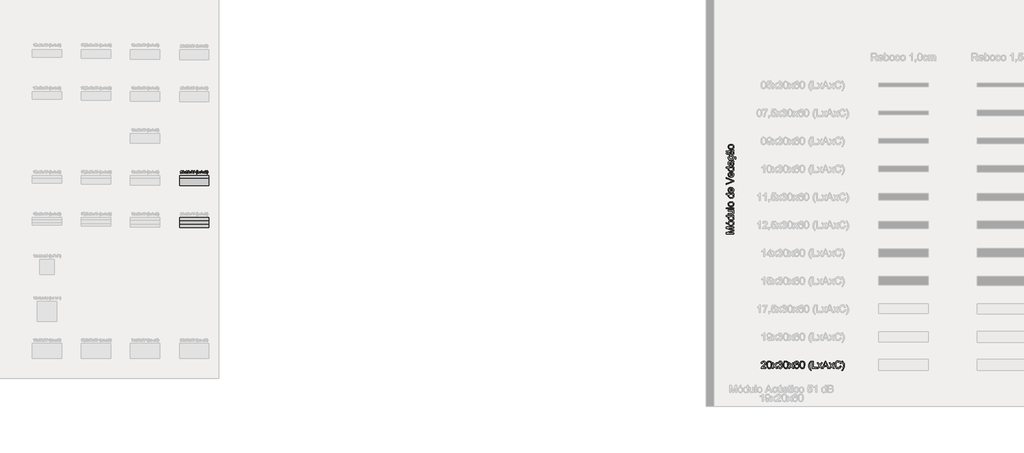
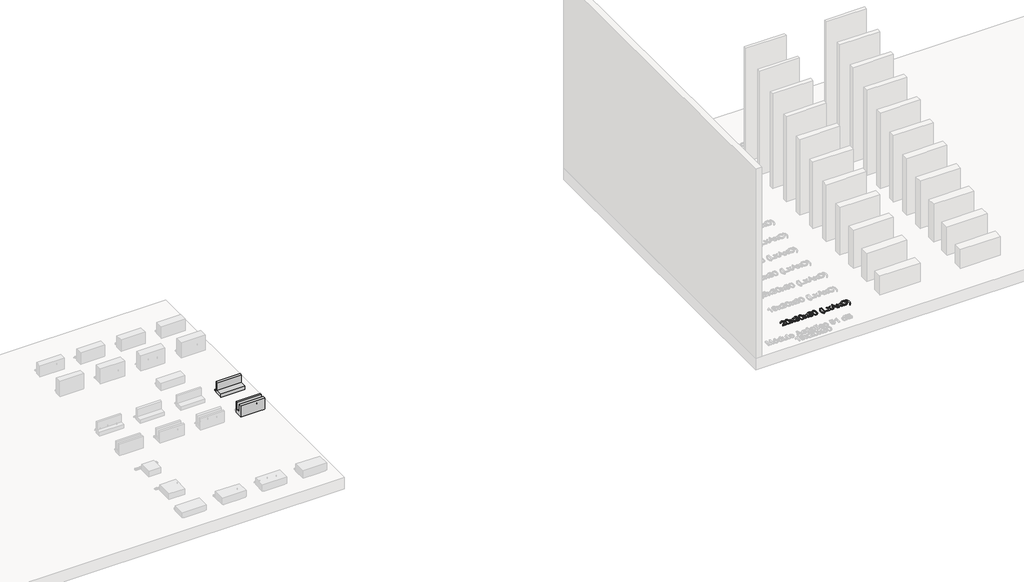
# One storey, part 11 of 26: 5 proxies.
"""IFC4 building model written with IfcOpenShell, lengths in millimetres."""

import ifcopenshell
import ifcopenshell.guid

model = None  # the IFC model being written
_history = None  # IfcOwnerHistory: only IFC2X3 demands one
_inside = {}  # id of a spatial element -> (the spatial element, [elements in it])
_under = {}  # id of a project, library or spatial element -> (it, [spatial elements below it])
_declared = {}  # id of a project -> (the project, [libraries it declares])
_typed = {}  # id of a type object -> (the type object, [elements of that type])
_made_of = {}  # id of a material, layer set ... -> (it, [elements and type objects made of it])


def new_model(schema):
    """Start an empty IFC model of exactly this schema.

    Asked for "IFC4X3", IfcOpenShell would pick the latest addendum, in which some entities
    have other attributes; the version numbers below select the first issue.
    IFC2X3 requires an IfcOwnerHistory on every rooted entity: one is made here for all.
    """
    global model, _history
    if schema == "IFC4X3":
        model = ifcopenshell.file(schema_version=(4, 3, 0, 0))
    else:
        model = ifcopenshell.file(schema=schema)
    _inside.clear()
    _under.clear()
    _declared.clear()
    _typed.clear()
    _made_of.clear()
    _history = None
    if model.schema == "IFC2X3":
        org = make("IfcOrganization", Name="unknown")
        user = make(
            "IfcPersonAndOrganization",
            ThePerson=make("IfcPerson", FamilyName="unknown"),
            TheOrganization=org,
        )
        app = make(
            "IfcApplication",
            ApplicationDeveloper=org,
            Version="unknown",
            ApplicationFullName="unknown",
            ApplicationIdentifier="unknown",
        )
        _history = make(
            "IfcOwnerHistory",
            OwningUser=user,
            OwningApplication=app,
            ChangeAction="ADDED",
            CreationDate=0,
        )
    return model


def make(cls, **values):
    """One entity of the class cls with the attributes given. An attribute that is None is left unset."""
    return model.create_entity(
        cls, **{name: value for name, value in values.items() if value is not None}
    )


def rooted(cls, **values):
    """An entity with a GlobalId (a new one), such as an element, a storey or a relation."""
    return make(cls, GlobalId=ifcopenshell.guid.new(), OwnerHistory=_history, **values)


def si_unit(unit_type, name, prefix=None):
    """IfcSIUnit, for example si_unit("LENGTHUNIT", "METRE", prefix="MILLI")."""
    return make("IfcSIUnit", UnitType=unit_type, Prefix=prefix, Name=name)


def assignment(units):
    """IfcUnitAssignment: the units of a project."""
    return None if units is None else make("IfcUnitAssignment", Units=units)


def point(xyz):
    """IfcCartesianPoint."""
    return None if xyz is None else make("IfcCartesianPoint", Coordinates=xyz)


def direction(xyz):
    """IfcDirection."""
    return None if xyz is None else make("IfcDirection", DirectionRatios=xyz)


def frame(location, z_axis=None, x_axis=None):
    """IfcAxis2Placement3D, a coordinate frame: its origin and axes. An axis left out is left unset."""
    return make(
        "IfcAxis2Placement3D",
        Location=point(location),
        Axis=direction(z_axis),
        RefDirection=direction(x_axis),
    )


def origin():
    """The frame at (0, 0, 0) with its axes left unset."""
    return frame((0.0, 0.0, 0.0))


def origin_with_axes():
    """The frame at (0, 0, 0) with the z axis (0, 0, 1) and the x axis (1, 0, 0) written out."""
    return frame((0.0, 0.0, 0.0), z_axis=(0.0, 0.0, 1.0), x_axis=(1.0, 0.0, 0.0))


def place(relative_to, where):
    """IfcLocalPlacement: puts the frame where relative to a parent placement (None: the world)."""
    return make(
        "IfcLocalPlacement", PlacementRelTo=relative_to, RelativePlacement=where
    )


def context(
    kind, dimensions, precision=None, world=None, true_north=None, identifier=None
):
    """IfcGeometricRepresentationContext, for example the 3D "Model" context."""
    return make(
        "IfcGeometricRepresentationContext",
        ContextIdentifier=identifier,
        ContextType=kind,
        CoordinateSpaceDimension=dimensions,
        Precision=precision,
        WorldCoordinateSystem=world,
        TrueNorth=true_north,
    )


def project(units=None, contexts=None):
    """IfcProject with its units and contexts."""
    return rooted(
        "IfcProject",
        Name="project",
        RepresentationContexts=contexts,
        UnitsInContext=assignment(units),
    )


def spatial(cls, under=None, at=None, **own):
    """A site, building, storey or space (cls), placed at a placement, below another one or the project."""
    s = rooted(cls, ObjectPlacement=at, **own)
    if under is not None:
        _under.setdefault(under.id(), (under, []))[1].append(s)
    return s


def polyline(points):
    """IfcPolyline through the points."""
    return make("IfcPolyline", Points=[point(p) for p in points])


def outline(outer, holes=None, kind="AREA"):
    """IfcArbitraryClosedProfileDef: a profile drawn as a closed curve; with holes, ...WithVoids."""
    if holes is None:
        return make("IfcArbitraryClosedProfileDef", ProfileType=kind, OuterCurve=outer)
    return make(
        "IfcArbitraryProfileDefWithVoids",
        ProfileType=kind,
        OuterCurve=outer,
        InnerCurves=holes,
    )


def extrude(swept, where, along, depth):
    """IfcExtrudedAreaSolid: the profile swept, set in the frame where, extruded along a direction by depth."""
    return make(
        "IfcExtrudedAreaSolid",
        SweptArea=swept,
        Position=where,
        ExtrudedDirection=direction(along),
        Depth=depth,
    )


def shape(context_of_items, identifier, shape_type, items):
    """IfcShapeRepresentation: the items that make up one representation, for example the "Body"."""
    return make(
        "IfcShapeRepresentation",
        ContextOfItems=context_of_items,
        RepresentationIdentifier=identifier,
        RepresentationType=shape_type,
        Items=items,
    )


def source(mapping_origin, context_of_items, identifier, shape_type, items):
    """IfcRepresentationMap: a shape defined once, which mapped items show again and again."""
    return make(
        "IfcRepresentationMap",
        MappingOrigin=mapping_origin,
        MappedRepresentation=shape(context_of_items, identifier, shape_type, items),
    )


def transform(
    local_origin,
    x_axis=None,
    y_axis=None,
    z_axis=None,
    scale=None,
    scale2=None,
    scale3=None,
    uniform=True,
):
    """IfcCartesianTransformationOperator3D, or its non-uniform kind. x_axis, y_axis, z_axis: its Axis1, 2, 3."""
    if uniform:
        return make(
            "IfcCartesianTransformationOperator3D",
            Axis1=direction(x_axis),
            Axis2=direction(y_axis),
            LocalOrigin=point(local_origin),
            Scale=scale,
            Axis3=direction(z_axis),
        )
    return make(
        "IfcCartesianTransformationOperator3DnonUniform",
        Axis1=direction(x_axis),
        Axis2=direction(y_axis),
        LocalOrigin=point(local_origin),
        Scale=scale,
        Axis3=direction(z_axis),
        Scale2=scale2,
        Scale3=scale3,
    )


def mapped(mapping_source, mapping_target):
    """IfcMappedItem: shows the shape of a source again, moved by a transform."""
    return make(
        "IfcMappedItem", MappingSource=mapping_source, MappingTarget=mapping_target
    )


def made_of(thing, what):
    """Note that an element or type object is made of a material, layer set ...; save() writes the relation."""
    if what is not None:
        _made_of.setdefault(what.id(), (what, []))[1].append(thing)
    return thing


def element(
    cls,
    number,
    at=None,
    inside=None,
    cuts=None,
    type_object=None,
    material=None,
    context=None,
    identifier="Body",
    shape_type=None,
    held_by="IfcProductDefinitionShape",
    body=None,
    shapes=None,
    **own,
):
    """One element of the class cls, such as IfcWall. Its Tag is "e" and its number.

    at: its placement. inside: the storey or other place that contains it. cuts: it is an
    opening in that element (IfcRelVoidsElement). A single representation is given by context,
    identifier, shape_type and body (its items); several are given by shapes. held_by: the class
    of the entity that holds the representations. save() writes the other relations.
    """
    e = rooted(cls, Tag="e%d" % number, ObjectPlacement=at, **own)
    if body is not None:
        shapes = [shape(context, identifier, shape_type, body)]
    if shapes is not None:
        e.Representation = make(held_by, Representations=shapes)
    if inside is not None:
        _inside.setdefault(inside.id(), (inside, []))[1].append(e)
    if cuts is not None:
        rooted(
            "IfcRelVoidsElement", RelatingBuildingElement=cuts, RelatedOpeningElement=e
        )
    if type_object is not None:
        _typed.setdefault(type_object.id(), (type_object, []))[1].append(e)
    return made_of(e, material)


def aggregate(whole, parts):
    """IfcRelAggregates: a whole, such as a stair, and the parts it consists of."""
    return rooted("IfcRelAggregates", RelatingObject=whole, RelatedObjects=parts)


def save(model, path):
    """Write the relations noted so far, then the file.

    IfcRelAggregates (storeys below a building ...), IfcRelContainedInSpatialStructure (elements
    in a storey), IfcRelDefinesByType, IfcRelAssociatesMaterial and IfcRelDeclares: one each for
    every whole, place, type object, material and project.
    """
    for whole, parts in _under.values():
        aggregate(whole, parts)
    for where, things in _inside.values():
        rooted(
            "IfcRelContainedInSpatialStructure",
            RelatedElements=things,
            RelatingStructure=where,
        )
    for kind, things in _typed.values():
        rooted("IfcRelDefinesByType", RelatedObjects=things, RelatingType=kind)
    for what, things in _made_of.values():
        rooted("IfcRelAssociatesMaterial", RelatedObjects=things, RelatingMaterial=what)
    for by, libraries in _declared.values():
        rooted("IfcRelDeclares", RelatingContext=by, RelatedDefinitions=libraries)
    model.write(path)


def generic_models_afc9f97a(model_context):
    return source(origin(), model_context, "Body", "SweptSolid", [
        extrude(outline(polyline([(100.0, 0.0), (-100.0, 0.0), (-100.0, 100.0), (50.0, 100.0), (50.0, 300.0), (100.0, 300.0), (100.0, 0.0)])), frame((-300.0, 0.0, 0.0), z_axis=(1.0, 0.0, 0.0), x_axis=(0.0, 1.0, 0.0)), (0.0, 0.0, 1.0), 600.0),
    ])


def generic_models_1f1a3453(model_context):
    return source(origin(), model_context, "Body", "SweptSolid", [
        extrude(outline(polyline([(100.0, 0.0), (-100.0, 0.0), (-100.0, 300.0), (-44.5, 300.0), (-44.5, 100.0), (44.5, 100.0), (44.5, 300.0), (100.0, 300.0), (100.0, 0.0)])), frame((-300.0, 0.0, 0.0), z_axis=(1.0, 0.0, 0.0), x_axis=(0.0, 1.0, 0.0)), (0.0, 0.0, 1.0), 600.0),
    ])


model = new_model("IFC4")

# Units and contexts
model_context = context("Model", 3, world=origin())
ifc_project = project(units=[si_unit("LENGTHUNIT", "METRE", prefix="MILLI")], contexts=[model_context])

# Site, building, storey
site = spatial("IfcSite", under=ifc_project)
building = spatial("IfcBuilding", under=site)
storey = spatial("IfcBuildingStorey", under=building, Name="Catálogo Celucon", Elevation=0.0)

# Proxies
placement = place(None, origin())
element("IfcBuildingElementProxy", 1, Name="Dimensões", ObjectType="Dimensões", at=placement, inside=storey, context=model_context, shape_type="SweptSolid", body=[
    extrude(outline(polyline([(-3749.3935585, -1164.8260642), (-3749.3935585, -1171.1045836), (-3782.3557852, -1171.1045836), (-3781.6813349, -1166.7758388), (-3777.8676249, -1160.1110433), (-3770.0072129, -1152.8331112), (-3759.1669568, -1142.3729998), (-3756.4568928, -1135.2606145), (-3759.0136726, -1129.5032613), (-3765.6907308, -1127.1549479), (-3772.6498319, -1129.448079), (-3775.2924509, -1135.7879121), (-3781.5709703, -1135.0030971), (-3776.7578475, -1124.4939348), (-3765.5558408, -1120.8764285), (-3754.3170458, -1124.898605), (-3750.1783734, -1134.8804698), (-3751.2942821, -1140.8340268), (-3755.0037589, -1146.9899188), (-3763.9984737, -1155.5922261), (-3771.2212235, -1161.6316222), (-3774.0539149, -1164.8260642), (-3749.3935585, -1164.8260642)])), origin_with_axes(), (0.0, 0.0, 1.0), 20.0),
    extrude(outline(polyline([(-3743.1150391, -1146.3951763), (-3741.2694977, -1131.9435452), (-3735.788056, -1123.611018), (-3726.6339257, -1120.8764285), (-3719.3008113, -1122.4951093), (-3714.2363025, -1127.1610793), (-3711.2932465, -1134.5922956), (-3710.1528123, -1146.3951763), (-3711.9799596, -1160.7854936), (-3717.4430072, -1169.1364149), (-3726.6339257, -1171.8893985), (-3738.1118439, -1167.1069326), (-3741.8642403, -1158.6119242), (-3743.1150391, -1146.3951763)]), holes=[polyline([(-3736.8365197, -1146.3829135), (-3733.8934637, -1161.9749788), (-3726.6339257, -1165.6108791), (-3719.3743877, -1161.962716), (-3716.4313317, -1146.3829135), (-3719.2762858, -1130.9686579), (-3726.7075021, -1127.1549479), (-3733.7953619, -1130.5149368), (-3736.8365197, -1146.3829135)])]), origin_with_axes(), (0.0, 0.0, 1.0), 20.0),
    extrude(outline(polyline([(-3707.0135526, -1171.1045836), (-3693.5981225, -1152.563331), (-3706.2287377, -1134.2182822), (-3698.6748941, -1134.2182822), (-3692.5803157, -1143.0474501), (-3689.7353616, -1147.2167794), (-3687.2705522, -1143.8077396), (-3680.3298452, -1134.2182822), (-3672.7760016, -1134.2182822), (-3686.0442789, -1152.563331), (-3673.2665109, -1171.1045836), (-3680.8203546, -1171.1045836), (-3688.5090883, -1159.9577591), (-3689.9193026, -1157.9221454), (-3699.459709, -1171.1045836), (-3707.0135526, -1171.1045836)])), origin_with_axes(), (0.0, 0.0, 1.0), 20.0),
    extrude(outline(polyline([(-3669.3424363, -1157.7627299), (-3663.0639169, -1156.977915), (-3659.5996948, -1163.5875282), (-3653.1188403, -1165.6108791), (-3645.4914203, -1162.8272387), (-3642.6587289, -1155.9355827), (-3645.4668948, -1149.4424654), (-3652.6038055, -1146.8734228), (-3657.0061267, -1147.5601359), (-3656.3071509, -1141.2816165), (-3648.1769589, -1139.5525711), (-3645.0131737, -1134.0098158), (-3647.3063048, -1129.0985911), (-3653.2169422, -1127.1549479), (-3659.201156, -1129.1169852), (-3662.279102, -1135.0030971), (-3668.5576214, -1134.2182822), (-3663.4195362, -1124.3713075), (-3653.4376714, -1120.8764285), (-3645.8654337, -1122.5993425), (-3640.5679329, -1127.3082321), (-3638.7346543, -1133.6419338), (-3640.4759624, -1139.4299438), (-3645.6263104, -1143.5870104), (-3638.7837052, -1147.878967), (-3636.3802095, -1156.0459473), (-3641.1872009, -1167.2786108), (-3653.3395695, -1171.8893985), (-3664.3515039, -1167.9530612), (-3669.3424363, -1157.7627299)])), origin_with_axes(), (0.0, 0.0, 1.0), 20.0),
    extrude(outline(polyline([(-3630.8865051, -1146.3951763), (-3629.0409637, -1131.9435452), (-3623.559522, -1123.611018), (-3614.4053917, -1120.8764285), (-3607.0722773, -1122.4951093), (-3602.0077685, -1127.1610793), (-3599.0647125, -1134.5922956), (-3597.9242783, -1146.3951763), (-3599.7514256, -1160.7854936), (-3605.2144732, -1169.1364149), (-3614.4053917, -1171.8893985), (-3625.8833099, -1167.1069326), (-3629.6357063, -1158.6119242), (-3630.8865051, -1146.3951763)]), holes=[polyline([(-3624.6079857, -1146.3829135), (-3621.6649297, -1161.9749788), (-3614.4053917, -1165.6108791), (-3607.1458537, -1161.962716), (-3604.2027977, -1146.3829135), (-3607.0477518, -1130.9686579), (-3614.4789681, -1127.1549479), (-3621.5668279, -1130.5149368), (-3624.6079857, -1146.3829135)])]), origin_with_axes(), (0.0, 0.0, 1.0), 20.0),
    extrude(outline(polyline([(-3594.7850186, -1171.1045836), (-3581.3695885, -1152.563331), (-3594.0002037, -1134.2182822), (-3586.4463601, -1134.2182822), (-3580.3517817, -1143.0474501), (-3577.5068276, -1147.2167794), (-3575.0420182, -1143.8077396), (-3568.1013112, -1134.2182822), (-3560.5474676, -1134.2182822), (-3573.8157449, -1152.563331), (-3561.0379769, -1171.1045836), (-3568.5918206, -1171.1045836), (-3576.2805543, -1159.9577591), (-3577.6907686, -1157.9221454), (-3587.231175, -1171.1045836), (-3594.7850186, -1171.1045836)])), origin_with_axes(), (0.0, 0.0, 1.0), 20.0),
    extrude(outline(polyline([(-3524.9364905, -1134.2182822), (-3531.2150099, -1135.0030971), (-3533.5939801, -1129.7669101), (-3539.8847622, -1127.1549479), (-3545.5501449, -1128.6755268), (-3549.8359702, -1134.3838291), (-3551.6201979, -1145.5735731), (-3546.0835738, -1140.5642466), (-3539.2225746, -1138.9271718), (-3528.5539968, -1143.4030694), (-3524.1516755, -1154.9668267), (-3526.2240775, -1163.6304477), (-3531.9262484, -1169.7618143), (-3540.1545423, -1171.8893985), (-3552.9507044, -1166.2485413), (-3556.661714, -1158.7805368), (-3557.8987172, -1147.6582378), (-3556.5252911, -1135.1533156), (-3552.4050128, -1126.6031249), (-3546.7794839, -1122.3081026), (-3539.4923547, -1120.8764285), (-3529.5718036, -1124.4203584), (-3524.9364905, -1134.2182822)]), holes=[polyline([(-3551.6201979, -1154.8687249), (-3550.167064, -1160.307247), (-3546.304303, -1164.2558471), (-3540.6450517, -1165.6108791), (-3533.2444922, -1162.8027132), (-3530.4301949, -1155.1752932), (-3533.207704, -1147.8728356), (-3540.9025691, -1145.2056911), (-3548.4993323, -1147.8728356), (-3551.6201979, -1154.8687249)])]), origin_with_axes(), (0.0, 0.0, 1.0), 20.0),
    extrude(outline(polyline([(-3518.6579711, -1146.3951763), (-3516.8124297, -1131.9435452), (-3511.330988, -1123.611018), (-3502.1768577, -1120.8764285), (-3494.8437433, -1122.4951093), (-3489.7792345, -1127.1610793), (-3486.8361785, -1134.5922956), (-3485.6957443, -1146.3951763), (-3487.5228916, -1160.7854936), (-3492.9859392, -1169.1364149), (-3502.1768577, -1171.8893985), (-3513.654776, -1167.1069326), (-3517.4071723, -1158.6119242), (-3518.6579711, -1146.3951763)]), holes=[polyline([(-3512.3794517, -1146.3829135), (-3509.4363957, -1161.9749788), (-3502.1768577, -1165.6108791), (-3494.9173197, -1161.962716), (-3491.9742637, -1146.3829135), (-3494.8192178, -1130.9686579), (-3502.2504341, -1127.1549479), (-3509.3382939, -1130.5149368), (-3512.3794517, -1146.3829135)])]), origin_with_axes(), (0.0, 0.0, 1.0), 20.0),
    extrude(outline(polyline([(-3446.4549982, -1185.2312522), (-3455.3700052, -1170.5037097), (-3459.0120369, -1153.0170522), (-3456.2897102, -1137.7499494), (-3446.4549982, -1120.8764285), (-3441.7461086, -1120.8764285), (-3447.6199578, -1130.8215051), (-3451.151625, -1140.4600134), (-3452.7335176, -1153.0538404), (-3449.9866653, -1169.1486777), (-3441.7461086, -1185.2312522), (-3446.4549982, -1185.2312522)])), origin_with_axes(), (0.0, 0.0, 1.0), 20.0),
    extrude(outline(polyline([(-3434.6827743, -1171.1045836), (-3434.6827743, -1120.8764285), (-3428.4042549, -1120.8764285), (-3428.4042549, -1164.8260642), (-3403.2901774, -1164.8260642), (-3403.2901774, -1171.1045836), (-3434.6827743, -1171.1045836)])), origin_with_axes(), (0.0, 0.0, 1.0), 20.0),
    extrude(outline(polyline([(-3366.7594953, -1171.1045836), (-3346.7099265, -1120.8764285), (-3341.3633749, -1120.8764285), (-3321.3138061, -1171.1045836), (-3327.9479448, -1171.1045836), (-3333.6991666, -1155.4082851), (-3354.3863975, -1155.4082851), (-3360.1253566, -1171.1045836), (-3366.7594953, -1171.1045836)]), holes=[polyline([(-3352.0810037, -1149.1297658), (-3335.9922977, -1149.1297658), (-3340.5172463, -1136.7811934), (-3344.0366507, -1127.1549479), (-3347.1636477, -1135.7020729), (-3352.0810037, -1149.1297658)])]), origin_with_axes(), (0.0, 0.0, 1.0), 20.0),
    extrude(outline(polyline([(-3400.9357326, -1171.1045836), (-3387.5203025, -1152.563331), (-3400.1509177, -1134.2182822), (-3392.5970741, -1134.2182822), (-3386.5024957, -1143.0474501), (-3383.6575416, -1147.2167794), (-3381.1927322, -1143.8077396), (-3374.2520252, -1134.2182822), (-3366.6981816, -1134.2182822), (-3379.9664589, -1152.563331), (-3367.1886909, -1171.1045836), (-3374.7425346, -1171.1045836), (-3382.4312683, -1159.9577591), (-3383.8414826, -1157.9221454), (-3393.381889, -1171.1045836), (-3400.9357326, -1171.1045836)])), origin_with_axes(), (0.0, 0.0, 1.0), 20.0),
    extrude(outline(polyline([(-3319.3149806, -1171.1045836), (-3305.8995505, -1152.563331), (-3318.5301657, -1134.2182822), (-3310.9763221, -1134.2182822), (-3304.8817437, -1143.0474501), (-3302.0367896, -1147.2167794), (-3299.5719802, -1143.8077396), (-3292.6312733, -1134.2182822), (-3285.0774296, -1134.2182822), (-3298.3457069, -1152.563331), (-3285.5679389, -1171.1045836), (-3293.1217826, -1171.1045836), (-3300.8105163, -1159.9577591), (-3302.2207306, -1157.9221454), (-3311.761137, -1171.1045836), (-3319.3149806, -1171.1045836)])), origin_with_axes(), (0.0, 0.0, 1.0), 20.0),
    extrude(outline(polyline([(-3243.972748, -1153.2500441), (-3237.6942286, -1154.8687249), (-3245.1377077, -1167.5299969), (-3258.2833576, -1171.8893985), (-3271.3492998, -1168.5907233), (-3279.0135081, -1159.0380542), (-3281.6438643, -1145.6103613), (-3278.6701515, -1131.9619393), (-3270.214997, -1123.1143773), (-3258.1484676, -1120.0916136), (-3245.5730347, -1124.0034255), (-3238.4790436, -1135.0153599), (-3244.7575629, -1136.5114133), (-3249.9079109, -1128.7920228), (-3258.3937222, -1126.370133), (-3268.2161715, -1129.0556715), (-3273.7650583, -1136.2661587), (-3275.3653449, -1145.5980986), (-3273.4707527, -1156.4138293), (-3267.572378, -1163.3238794), (-3258.908757, -1165.6108791), (-3249.3009056, -1162.4961449), (-3243.972748, -1153.2500441)])), origin_with_axes(), (0.0, 0.0, 1.0), 20.0),
    extrude(outline(polyline([(-3228.2764496, -1185.2312522), (-3232.9853391, -1185.2312522), (-3224.7447824, -1169.1486777), (-3221.9979302, -1153.0538404), (-3223.5798228, -1140.570378), (-3227.0747017, -1130.919607), (-3232.9853391, -1120.8764285), (-3228.2764496, -1120.8764285), (-3218.4417376, -1137.7499494), (-3215.7194108, -1153.0170522), (-3219.3798366, -1170.5037097), (-3228.2764496, -1185.2312522)])), origin_with_axes(), (0.0, 0.0, 1.0), 20.0),
])
element("IfcBuildingElementProxy", 2, Name="Legenda Tabela de Módulos", ObjectType="Legenda Tabela de Módulos", at=placement, inside=storey, context=model_context, shape_type="SweptSolid", body=[
    extrude(outline(polyline([(7504.6944443, -2411.9213543), (7354.0099791, -2411.9213543), (7354.0099791, -2379.5109505), (7460.2175111, -2348.6824393), (7482.4007954, -2342.4652336), (7458.3781011, -2335.7329931), (7354.0099791, -2305.4195167), (7354.0099791, -2273.0091129), (7504.6944443, -2273.0091129), (7504.6944443, -2291.8446711), (7372.8455373, -2291.8446711), (7504.6944443, -2329.6997284), (7504.6944443, -2355.2307388), (7372.8455373, -2393.0857962), (7504.6944443, -2393.0857962), (7504.6944443, -2411.9213543)])), origin_with_axes(), (0.0, 0.0, 1.0), 20.0),
    extrude(outline(polyline([(7449.3649923, -2247.1102205), (7422.6843506, -2243.0359274), (7403.9315659, -2230.8130481), (7394.743713, -2215.7114922), (7391.6810954, -2197.6300921), (7395.4104991, -2177.8426393), (7406.5987103, -2162.0375091), (7424.3628122, -2151.6770324), (7447.8198879, -2148.2235402), (7466.8485841, -2149.7502504), (7481.3339376, -2154.3303813), (7492.181858, -2161.8305755), (7500.2982545, -2172.1174757), (7505.3612304, -2184.3357565), (7507.0488891, -2197.6300921), (7503.333281, -2217.6566682), (7492.1864565, -2233.4434043), (7474.0498741, -2243.6935164), (7449.3649923, -2247.1102205)]), holes=[polyline([(7449.3282041, -2228.2746623), (7466.374936, -2226.0949615), (7478.5196404, -2219.555859), (7485.7899083, -2209.7150157), (7488.2133309, -2197.6300921), (7485.7761127, -2185.6003509), (7478.4644581, -2175.7779016), (7466.1588053, -2169.2387991), (7448.7395929, -2167.0590983), (7432.1895016, -2169.2525947), (7420.2103441, -2175.8330839), (7412.9400762, -2185.6693287), (7410.5166536, -2197.6300921), (7412.9308792, -2209.7150157), (7420.1735559, -2219.555859), (7432.2906692, -2226.0949615), (7449.3282041, -2228.2746623)])]), origin_with_axes(), (0.0, 0.0, 1.0), 20.0),
    extrude(outline(polyline([(7382.2633163, -2211.7935489), (7354.0099791, -2197.6668803), (7354.0099791, -2174.1224326), (7382.2633163, -2197.6668803), (7382.2633163, -2211.7935489)])), origin_with_axes(), (0.0, 0.0, 1.0), 20.0),
    extrude(outline(polyline([(7504.6944443, -2058.7546389), (7486.925744, -2058.7546389), (7502.0181028, -2071.2166415), (7507.0488891, -2088.4427159), (7505.2278732, -2100.61961), (7499.7648256, -2111.7664344), (7491.0414238, -2121.2026076), (7479.4393454, -2128.2475478), (7465.4276399, -2132.6345406), (7449.4753569, -2134.0968715), (7419.4929742, -2128.7074003), (7407.6011888, -2121.9751598), (7398.8547943, -2112.5573807), (7393.4745201, -2101.1668345), (7391.6810954, -2088.5162923), (7396.8130492, -2071.1522622), (7410.1487716, -2058.7546389), (7354.0099791, -2058.7546389), (7354.0099791, -2039.9190808), (7504.6944443, -2039.9190808), (7504.6944443, -2058.7546389)]), holes=[polyline([(7449.4017805, -2115.2613134), (7466.4393154, -2113.1367949), (7478.5564286, -2106.7632393), (7485.7991054, -2097.5018101), (7488.2133309, -2086.7136706), (7485.90947, -2075.9301296), (7478.997887, -2066.9032251), (7467.3498233, -2060.7917855), (7450.8365202, -2058.7546389), (7432.7827113, -2060.8285737), (7420.2655264, -2067.0503779), (7412.9538718, -2076.3072086), (7410.5166536, -2087.4862228), (7412.8573028, -2098.3847269), (7419.8792503, -2107.3150623), (7431.9411813, -2113.2747506), (7449.4017805, -2115.2613134)])]), origin_with_axes(), (0.0, 0.0, 1.0), 20.0),
    extrude(outline(polyline([(7504.6944443, -1941.0324005), (7485.6749452, -1941.0324005), (7501.7054031, -1955.7844685), (7507.0488891, -1975.0246968), (7503.2964928, -1992.7382149), (7493.8787137, -2004.9518971), (7480.0095625, -2010.5620976), (7462.4983795, -2011.6657436), (7394.0355402, -2011.6657436), (7394.0355402, -1992.8301854), (7453.6324234, -1992.8301854), (7472.8358635, -1991.6897512), (7484.1114467, -1984.2401408), (7488.2133309, -1970.2054427), (7484.0194762, -1954.4784874), (7472.5967403, -1944.085821), (7451.6090724, -1941.0324005), (7394.0355402, -1941.0324005), (7394.0355402, -1922.1968423), (7504.6944443, -1922.1968423), (7504.6944443, -1941.0324005)])), origin_with_axes(), (0.0, 0.0, 1.0), 20.0),
    extrude(outline(polyline([(7504.6944443, -1896.2979499), (7354.0099791, -1896.2979499), (7354.0099791, -1877.4623917), (7504.6944443, -1877.4623917), (7504.6944443, -1896.2979499)])), origin_with_axes(), (0.0, 0.0, 1.0), 20.0),
    extrude(outline(polyline([(7449.3649923, -1853.917944), (7422.6843506, -1849.8436509), (7403.9315659, -1837.6207716), (7394.743713, -1822.5192157), (7391.6810954, -1804.4378157), (7395.4104991, -1784.6503629), (7406.5987103, -1768.8452326), (7424.3628122, -1758.4847559), (7447.8198879, -1755.0312637), (7466.8485841, -1756.557974), (7481.3339376, -1761.1381048), (7492.181858, -1768.638299), (7500.2982545, -1778.9251993), (7505.3612304, -1791.1434801), (7507.0488891, -1804.4378157), (7503.333281, -1824.4643918), (7492.1864565, -1840.2511279), (7474.0498741, -1850.50124), (7449.3649923, -1853.917944)]), holes=[polyline([(7449.3282041, -1835.0823859), (7466.374936, -1832.902685), (7478.5196404, -1826.3635826), (7485.7899083, -1816.5227392), (7488.2133309, -1804.4378157), (7485.7761127, -1792.4080744), (7478.4644581, -1782.5856252), (7466.1588053, -1776.0465227), (7448.7395929, -1773.8668219), (7432.1895016, -1776.0603183), (7420.2103441, -1782.6408075), (7412.9400762, -1792.4770523), (7410.5166536, -1804.4378157), (7412.9308792, -1816.5227392), (7420.1735559, -1826.3635826), (7432.2906692, -1832.902685), (7449.3282041, -1835.0823859)])]), origin_with_axes(), (0.0, 0.0, 1.0), 20.0),
    extrude(outline(polyline([(7504.6944443, -1606.7012433), (7486.925744, -1606.7012433), (7502.0181028, -1619.1632458), (7507.0488891, -1636.3893203), (7505.2278732, -1648.5662143), (7499.7648256, -1659.7130388), (7491.0414238, -1669.1492119), (7479.4393454, -1676.1941521), (7465.4276399, -1680.5811449), (7449.4753569, -1682.0434759), (7419.4929742, -1676.6540046), (7407.6011888, -1669.9217641), (7398.8547943, -1660.5039851), (7393.4745201, -1649.1134388), (7391.6810954, -1636.4628967), (7396.8130492, -1619.0988665), (7410.1487716, -1606.7012433), (7354.0099791, -1606.7012433), (7354.0099791, -1587.8656851), (7504.6944443, -1587.8656851), (7504.6944443, -1606.7012433)]), holes=[polyline([(7449.4017805, -1663.2079177), (7466.4393154, -1661.0833992), (7478.5564286, -1654.7098436), (7485.7991054, -1645.4484144), (7488.2133309, -1634.6602749), (7485.90947, -1623.8767339), (7478.997887, -1614.8498295), (7467.3498233, -1608.7383898), (7450.8365202, -1606.7012433), (7432.7827113, -1608.775178), (7420.2655264, -1614.9969823), (7412.9538718, -1624.253813), (7410.5166536, -1635.4328271), (7412.8573028, -1646.3313312), (7419.8792503, -1655.2616666), (7431.9411813, -1661.2213549), (7449.4017805, -1663.2079177)])]), origin_with_axes(), (0.0, 0.0, 1.0), 20.0),
    extrude(outline(polyline([(7471.7322176, -1482.1363997), (7474.0866623, -1463.6687235), (7488.0017988, -1470.3227891), (7498.4036622, -1480.9407832), (7504.8875824, -1495.2835825), (7507.0488891, -1513.1120637), (7503.3194854, -1535.2125745), (7492.1312742, -1552.2179198), (7474.2108225, -1563.0612416), (7450.2846972, -1566.6756822), (7425.5538301, -1563.0244534), (7407.0585628, -1552.070767), (7395.5254623, -1535.295348), (7391.6810954, -1514.1789215), (7395.5162652, -1493.720084), (7407.0217746, -1477.3723279), (7425.4802537, -1466.6531662), (7450.1743326, -1463.0801123), (7455.2511042, -1463.1904769), (7455.2511042, -1547.840124), (7469.3501816, -1544.5797699), (7479.7152569, -1537.0059993), (7486.0888124, -1526.0753055), (7488.2133309, -1512.7441817), (7484.2769936, -1494.2765055), (7471.7322176, -1482.1363997)]), holes=[polyline([(7436.415546, -1547.840124), (7436.415546, -1481.9156705), (7426.4643381, -1484.4632533), (7419.3458215, -1489.4572514), (7412.7239455, -1500.438529), (7410.5166536, -1514.2524979), (7412.2778886, -1526.9490252), (7417.5615938, -1537.4474577), (7425.7975519, -1544.7453167), (7436.415546, -1547.840124)])]), origin_with_axes(), (0.0, 0.0, 1.0), 20.0),
    extrude(outline(polyline([(7504.6944443, -1338.5152688), (7354.0099791, -1398.480034), (7354.0099791, -1378.3201007), (7462.5719559, -1338.184175), (7487.0361086, -1330.0539829), (7462.5719559, -1322.0341554), (7354.0099791, -1281.7878651), (7354.0099791, -1261.6279318), (7504.6944443, -1319.0543112), (7504.6944443, -1338.5152688)])), origin_with_axes(), (0.0, 0.0, 1.0), 20.0),
    extrude(outline(polyline([(7471.7322176, -1168.9952454), (7474.0866623, -1150.5275692), (7488.0017988, -1157.1816348), (7498.4036622, -1167.7996289), (7504.8875824, -1182.1424282), (7507.0488891, -1199.9709094), (7503.3194854, -1222.0714203), (7492.1312742, -1239.0767655), (7474.2108225, -1249.9200873), (7450.2846972, -1253.5345279), (7425.5538301, -1249.8832991), (7407.0585628, -1238.9296127), (7395.5254623, -1222.1541937), (7391.6810954, -1201.0377672), (7395.5162652, -1180.5789297), (7407.0217746, -1164.2311736), (7425.4802537, -1153.5120119), (7450.1743326, -1149.938958), (7455.2511042, -1150.0493226), (7455.2511042, -1234.6989697), (7469.3501816, -1231.4386156), (7479.7152569, -1223.864845), (7486.0888124, -1212.9341512), (7488.2133309, -1199.6030274), (7484.2769936, -1181.1353512), (7471.7322176, -1168.9952454)]), holes=[polyline([(7436.415546, -1234.6989697), (7436.415546, -1168.7745162), (7426.4643381, -1171.322099), (7419.3458215, -1176.3160971), (7412.7239455, -1187.2973747), (7410.5166536, -1201.1113436), (7412.2778886, -1213.8078709), (7417.5615938, -1224.3063034), (7425.7975519, -1231.6041625), (7436.415546, -1234.6989697)])]), origin_with_axes(), (0.0, 0.0, 1.0), 20.0),
    extrude(outline(polyline([(7504.6944443, -1062.8245016), (7486.925744, -1062.8245016), (7502.0181028, -1075.2865042), (7507.0488891, -1092.5125786), (7505.2278732, -1104.6894726), (7499.7648256, -1115.8362971), (7491.0414238, -1125.2724703), (7479.4393454, -1132.3174105), (7465.4276399, -1136.7044033), (7449.4753569, -1138.1667342), (7419.4929742, -1132.777263), (7407.6011888, -1126.0450225), (7398.8547943, -1116.6272434), (7393.4745201, -1105.2366971), (7391.6810954, -1092.586155), (7396.8130492, -1075.2221248), (7410.1487716, -1062.8245016), (7354.0099791, -1062.8245016), (7354.0099791, -1043.9889434), (7504.6944443, -1043.9889434), (7504.6944443, -1062.8245016)]), holes=[polyline([(7449.4017805, -1119.3311761), (7466.4393154, -1117.2066575), (7478.5564286, -1110.833102), (7485.7991054, -1101.5716727), (7488.2133309, -1090.7835332), (7485.90947, -1079.9999922), (7478.997887, -1070.9730878), (7467.3498233, -1064.8616481), (7450.8365202, -1062.8245016), (7432.7827113, -1064.8984363), (7420.2655264, -1071.1202406), (7412.9538718, -1080.3770713), (7410.5166536, -1091.5560854), (7412.8573028, -1102.4545895), (7419.8792503, -1111.384925), (7431.9411813, -1117.3446133), (7449.4017805, -1119.3311761)])]), origin_with_axes(), (0.0, 0.0, 1.0), 20.0),
    extrude(outline(polyline([(7490.5677757, -945.1022631), (7503.333281, -963.3676042), (7507.0488891, -983.5459316), (7504.814006, -999.2866825), (7498.1093566, -1010.897958), (7487.9282224, -1018.0578613), (7475.2638847, -1020.4444957), (7460.3646639, -1016.8392522), (7449.5489333, -1007.3662908), (7443.3685157, -994.1777213), (7440.5358244, -977.8805489), (7434.0611013, -945.2126277), (7429.8672465, -945.1022631), (7421.4611429, -946.3990472), (7415.9613071, -950.2893993), (7411.8778169, -958.9898085), (7410.5166536, -971.1115202), (7414.1402912, -990.1678075), (7426.997767, -999.2544928), (7424.6433222, -1018.090051), (7406.2492224, -1009.9414648), (7395.47028, -993.5339278), (7391.6810954, -968.683499), (7395.0288216, -945.8564212), (7403.4349252, -932.9621573), (7416.2188245, -927.18641), (7432.6999379, -926.266705), (7456.134021, -926.266705), (7488.8571244, -925.3102118), (7504.6944443, -921.5578154), (7504.6944443, -940.3933736), (7490.5677757, -945.1022631)]), holes=[polyline([(7452.8966594, -945.1022631), (7458.6724067, -975.4893159), (7461.7258273, -991.6945178), (7466.6922342, -999.0337636), (7473.9395095, -1001.6089376), (7484.1298408, -995.9987372), (7488.2133309, -979.5360179), (7483.7067765, -960.4797305), (7472.7990754, -948.1924719), (7458.2309483, -945.2126277), (7452.8966594, -945.1022631)])]), origin_with_axes(), (0.0, 0.0, 1.0), 20.0),
    extrude(outline(polyline([(7464.6688833, -829.7344694), (7467.023328, -810.8989113), (7483.7757544, -816.1504268), (7496.4354935, -826.0188613), (7504.3955402, -839.5753128), (7506.9580622, -856.3824729), (7514.9215638, -859.0178763), (7519.9247589, -844.2842024), (7528.9378678, -839.1522485), (7535.6885024, -841.0100526), (7541.5930084, -846.5834648), (7545.7040897, -855.9092734), (7547.0744502, -869.0242665), (7547.0744502, -883.8866991), (7535.3022263, -883.8866991), (7535.3022263, -873.4756387), (7533.1317226, -858.8339353), (7529.0850206, -855.6333619), (7526.4178761, -856.9209489), (7524.4313134, -861.6850207), (7523.5300025, -872.7030865), (7504.9102177, -867.466272), (7503.3470765, -875.9266525), (7492.2416388, -891.5938269), (7474.2200196, -901.7059833), (7449.7696625, -905.0767021), (7433.008039, -903.6373638), (7418.4812988, -899.3193488), (7406.7504616, -892.0536794), (7398.3765477, -881.7713777), (7393.3549585, -869.4703235), (7391.6810954, -856.1483967), (7393.9803579, -840.2329019), (7400.8781453, -827.5087834), (7412.0065756, -818.3807114), (7426.997767, -813.2533561), (7429.3522117, -832.0889142), (7415.2439372, -840.8261116), (7410.5166536, -856.0012439), (7412.8435072, -868.1735394), (7419.824068, -877.8350403), (7431.8354152, -884.139618), (7449.2546277, -886.2411439), (7466.9083649, -884.1856033), (7478.9610988, -878.0189813), (7485.9002729, -868.5322244), (7488.2133309, -856.5162787), (7486.7693941, -846.7628073), (7482.4375836, -838.7659724), (7475.1075349, -832.9488384), (7464.6688833, -829.7344694)])), origin_with_axes(), (0.0, 0.0, 1.0), 20.0),
    extrude(outline(polyline([(7490.5677757, -723.7844548), (7503.333281, -742.0497959), (7507.0488891, -762.2281233), (7504.814006, -777.9688742), (7498.1093566, -789.5801497), (7487.9282224, -796.740053), (7475.2638847, -799.1266874), (7460.3646639, -795.5214439), (7449.5489333, -786.0484825), (7443.3685157, -772.859913), (7440.5358244, -756.5627406), (7434.0611013, -723.8948194), (7429.8672465, -723.7844548), (7421.4611429, -725.0812389), (7415.9613071, -728.971591), (7411.8778169, -737.6720002), (7410.5166536, -749.7937119), (7414.1402912, -768.8499992), (7426.997767, -777.9366845), (7424.6433222, -796.7722427), (7406.2492224, -788.6236565), (7395.47028, -772.2161195), (7391.6810954, -747.3656907), (7395.0288216, -724.5386129), (7403.4349252, -711.644349), (7416.2188245, -705.8686017), (7432.6999379, -704.9488967), (7456.134021, -704.9488967), (7488.8571244, -703.9924035), (7504.6944443, -700.2400071), (7504.6944443, -719.0755653), (7490.5677757, -723.7844548)]), holes=[polyline([(7452.8966594, -723.7844548), (7458.6724067, -754.1715076), (7461.7258273, -770.3767095), (7466.6922342, -777.7159553), (7473.9395095, -780.2911293), (7484.1298408, -774.6809289), (7488.2133309, -758.2182096), (7483.7067765, -739.1619222), (7472.7990754, -726.8746636), (7458.2309483, -723.8948194), (7452.8966594, -723.7844548)])]), origin_with_axes(), (0.0, 0.0, 1.0), 20.0),
    extrude(outline(polyline([(7382.2633163, -782.6455741), (7370.6842305, -781.2200313), (7361.6987128, -776.7962503), (7355.9321625, -770.1283892), (7354.0099791, -761.8234531), (7360.080032, -746.7402913), (7363.4277582, -739.125134), (7361.5331659, -735.1336144), (7354.0099791, -733.2022339), (7354.0099791, -716.7211205), (7366.3708141, -718.3627939), (7375.199982, -722.699203), (7380.4974828, -729.1509334), (7382.2633163, -737.1385713), (7376.5243572, -752.0377921), (7372.8455373, -759.9840432), (7375.2367702, -764.4722035), (7382.2633163, -766.1644607), (7382.2633163, -782.6455741)])), origin_with_axes(), (0.0, 0.0, 1.0), 20.0),
    extrude(outline(polyline([(7449.3649923, -683.7588938), (7422.6843506, -679.6846007), (7403.9315659, -667.4617214), (7394.743713, -652.3601655), (7391.6810954, -634.2787654), (7395.4104991, -614.4913126), (7406.5987103, -598.6861824), (7424.3628122, -588.3257057), (7447.8198879, -584.8722135), (7466.8485841, -586.3989237), (7481.3339376, -590.9790546), (7492.181858, -598.4792488), (7500.2982545, -608.766149), (7505.3612304, -620.9844298), (7507.0488891, -634.2787654), (7503.333281, -654.3053415), (7492.1864565, -670.0920776), (7474.0498741, -680.3421897), (7449.3649923, -683.7588938)]), holes=[polyline([(7449.3282041, -664.9233356), (7466.374936, -662.7436348), (7478.5196404, -656.2045323), (7485.7899083, -646.363689), (7488.2133309, -634.2787654), (7485.7761127, -622.2490242), (7478.4644581, -612.4265749), (7466.1588053, -605.8874724), (7448.7395929, -603.7077716), (7432.1895016, -605.901268), (7420.2103441, -612.4817572), (7412.9400762, -622.318002), (7410.5166536, -634.2787654), (7412.9308792, -646.363689), (7420.1735559, -656.2045323), (7432.2906692, -662.7436348), (7449.3282041, -664.9233356)])]), origin_with_axes(), (0.0, 0.0, 1.0), 20.0),
])
element("IfcBuildingElementProxy", 3, Name="Legenda Tabela de Módulos", ObjectType="Legenda Tabela de Módulos", at=placement, inside=storey, context=model_context, shape_type="SweptSolid", body=[
    extrude(outline(polyline([(8161.0628465, -5139.4073962), (8161.0628465, -5158.2429544), (8062.1761662, -5158.2429544), (8064.1995172, -5145.2567199), (8075.6406472, -5125.2623335), (8099.2218831, -5103.4285371), (8131.7426515, -5072.0482029), (8137.8402956, -5061.2324722), (8139.8728436, -5050.7110472), (8137.9552587, -5041.2794725), (8132.202504, -5033.4389875), (8123.3595405, -5028.1552823), (8112.1713294, -5026.3940473), (8100.4220981, -5028.1138956), (8091.2940261, -5033.2734406), (8085.4033157, -5041.468012), (8083.3661691, -5052.2929398), (8064.530611, -5049.938495), (8069.0969462, -5031.7191392), (8078.9699793, -5018.411008), (8093.6346753, -5010.2716189), (8112.5759996, -5007.5584891), (8131.6552795, -5010.5751215), (8146.2923844, -5019.6250186), (8155.6043974, -5033.1446819), (8158.7084017, -5049.570613), (8155.3606756, -5067.4312839), (8144.2322452, -5085.89896), (8117.2481009, -5111.705882), (8095.5798514, -5129.8240702), (8087.0817773, -5139.4073962), (8161.0628465, -5139.4073962)])), origin_with_axes(), (0.0, 0.0, 1.0), 20.0),
    extrude(outline(polyline([(8179.8984047, -5084.1147323), (8181.2825607, -5059.995469), (8185.4350287, -5040.7598392), (8192.314422, -5026.1135373), (8201.8793539, -5015.7622576), (8214.1988022, -5009.6094313), (8229.3417448, -5007.5584891), (8251.3410881, -5012.4145315), (8266.5346145, -5026.4124414), (8275.3637824, -5048.7060903), (8278.785085, -5084.1147323), (8277.4147245, -5108.0960399), (8273.3036432, -5127.2856845), (8266.4656367, -5141.945782), (8256.9145004, -5152.3384483), (8244.5674609, -5158.5326614), (8229.3417448, -5160.5973991), (8209.7704227, -5157.0105497), (8194.9079901, -5146.2500013), (8183.650801, -5120.7649761), (8179.8984047, -5084.1147323)]), holes=[polyline([(8198.7339628, -5084.0779441), (8200.9412548, -5113.7062403), (8207.5631307, -5130.8541398), (8217.4223682, -5139.0349157), (8229.3417448, -5141.761841), (8241.2611215, -5139.0257186), (8251.1203589, -5130.8173516), (8257.7422349, -5113.6602551), (8259.9495268, -5084.0779441), (8257.8158112, -5055.1164341), (8251.4146645, -5037.8351773), (8241.5738212, -5029.2543298), (8229.1210156, -5026.3940473), (8217.3303977, -5028.914039), (8207.8574363, -5036.474014), (8201.0148312, -5054.8313255), (8198.7339628, -5084.0779441)])]), origin_with_axes(), (0.0, 0.0, 1.0), 20.0),
    extrude(outline(polyline([(8288.2028641, -5158.2429544), (8328.4491543, -5102.6191967), (8290.5573088, -5047.5840502), (8313.2188397, -5047.5840502), (8331.5025749, -5074.0715539), (8340.0374372, -5086.5795417), (8347.4318653, -5076.3524222), (8368.2539862, -5047.5840502), (8390.9155171, -5047.5840502), (8351.1106852, -5102.6191967), (8389.4439891, -5158.2429544), (8366.7824582, -5158.2429544), (8343.7162571, -5124.802481), (8339.4856142, -5118.6956399), (8310.864395, -5158.2429544), (8288.2028641, -5158.2429544)])), origin_with_axes(), (0.0, 0.0, 1.0), 20.0),
    extrude(outline(polyline([(8401.216213, -5118.2173933), (8420.0517711, -5115.8629485), (8424.2686185, -5127.6995517), (8430.4444375, -5135.6917881), (8438.8827308, -5140.2443278), (8449.8870009, -5141.761841), (8462.799659, -5139.6741107), (8472.769261, -5133.4109197), (8479.1428166, -5124.066717), (8481.2673351, -5112.7359516), (8479.1612107, -5101.9800017), (8472.8428374, -5093.2565999), (8463.2779056, -5087.4762541), (8451.4321053, -5085.5494721), (8438.2251417, -5087.6096113), (8440.3220691, -5068.7740531), (8443.3387014, -5068.9947823), (8464.7126453, -5063.586917), (8471.8311619, -5056.7259178), (8474.2040008, -5046.9586508), (8472.4841525, -5038.8238602), (8467.3246075, -5032.2249769), (8459.4519328, -5027.8517797), (8449.5926953, -5026.3940473), (8439.7150638, -5027.8655753), (8431.640054, -5032.2801592), (8425.744745, -5039.6377991), (8422.4062159, -5049.938495), (8403.5706577, -5047.5840502), (8409.1164788, -5030.6706755), (8418.9849133, -5018.043126), (8432.4861826, -5010.1796484), (8448.9305077, -5007.5584891), (8471.6472209, -5012.7272312), (8487.5397231, -5026.8538998), (8493.039559, -5045.8550048), (8487.8156346, -5063.219035), (8472.3645908, -5075.6902346), (8484.1552088, -5080.4543065), (8492.8924062, -5088.5661045), (8498.3002715, -5099.5841702), (8500.1028933, -5113.0670454), (8496.4976497, -5131.4243569), (8485.6819191, -5146.7650361), (8469.3571555, -5157.1393084), (8449.2248133, -5160.5973991), (8431.0146546, -5157.6451461), (8416.1890102, -5148.7883871), (8405.8791173, -5135.2411326), (8401.216213, -5118.2173933)])), origin_with_axes(), (0.0, 0.0, 1.0), 20.0),
    extrude(outline(polyline([(8516.5840067, -5084.1147323), (8517.9681627, -5059.995469), (8522.1206307, -5040.7598392), (8529.000024, -5026.1135373), (8538.5649559, -5015.7622576), (8550.8844042, -5009.6094313), (8566.0273468, -5007.5584891), (8588.0266901, -5012.4145315), (8603.2202165, -5026.4124414), (8612.0493844, -5048.7060903), (8615.470687, -5084.1147323), (8614.1003265, -5108.0960399), (8609.9892452, -5127.2856845), (8603.1512386, -5141.945782), (8593.6001023, -5152.3384483), (8581.2530629, -5158.5326614), (8566.0273468, -5160.5973991), (8546.4560247, -5157.0105497), (8531.5935921, -5146.2500013), (8520.336403, -5120.7649761), (8516.5840067, -5084.1147323)]), holes=[polyline([(8535.4195648, -5084.0779441), (8537.6268568, -5113.7062403), (8544.2487327, -5130.8541398), (8554.1079702, -5139.0349157), (8566.0273468, -5141.761841), (8577.9467235, -5139.0257186), (8587.8059609, -5130.8173516), (8594.4278368, -5113.6602551), (8596.6351288, -5084.0779441), (8594.5014132, -5055.1164341), (8588.1002665, -5037.8351773), (8578.2594231, -5029.2543298), (8565.8066176, -5026.3940473), (8554.0159997, -5028.914039), (8544.5430383, -5036.474014), (8537.7004332, -5054.8313255), (8535.4195648, -5084.0779441)])]), origin_with_axes(), (0.0, 0.0, 1.0), 20.0),
    extrude(outline(polyline([(8624.888466, -5158.2429544), (8665.1347563, -5102.6191967), (8627.2429108, -5047.5840502), (8649.9044417, -5047.5840502), (8668.1881769, -5074.0715539), (8676.7230392, -5086.5795417), (8684.1174673, -5076.3524222), (8704.9395882, -5047.5840502), (8727.6011191, -5047.5840502), (8687.7962872, -5102.6191967), (8726.1295911, -5158.2429544), (8703.4680602, -5158.2429544), (8680.4018591, -5124.802481), (8676.1712162, -5118.6956399), (8647.5499969, -5158.2429544), (8624.888466, -5158.2429544)])), origin_with_axes(), (0.0, 0.0, 1.0), 20.0),
    extrude(outline(polyline([(8834.4340505, -5047.5840502), (8815.5984923, -5049.938495), (8808.4615816, -5034.2299338), (8799.9175223, -5028.3530189), (8789.5892353, -5026.3940473), (8772.5930871, -5030.955784), (8759.7356114, -5048.0806909), (8755.8314637, -5062.1107905), (8754.3829283, -5081.649923), (8770.9928004, -5066.6219435), (8791.5757981, -5061.7107188), (8808.9766164, -5065.067642), (8823.5815316, -5075.1384117), (8833.4867544, -5090.5250761), (8836.7884953, -5109.8296838), (8835.2341938, -5123.3171574), (8830.5712895, -5135.8205468), (8823.1860585, -5146.4247453), (8813.4647768, -5154.2146465), (8801.8489028, -5159.001711), (8788.7798949, -5160.5973991), (8767.4105495, -5156.3667562), (8750.3914087, -5143.6748274), (8739.2583798, -5121.2708139), (8735.5473702, -5087.9039169), (8739.6676485, -5050.3891504), (8752.0284836, -5024.7385783), (8768.9050701, -5011.8535114), (8790.7664577, -5007.5584891), (8807.2935563, -5010.2164366), (8820.5281111, -5018.1902788), (8829.7987374, -5030.8546165), (8834.4340505, -5047.5840502)]), holes=[polyline([(8754.3829283, -5109.5353782), (8758.74233, -5125.8509447), (8770.3306128, -5137.6967449), (8787.3083669, -5141.761841), (8799.7381798, -5139.6557166), (8809.5100453, -5133.3373433), (8815.8422142, -5123.4045294), (8817.9529371, -5110.4550832), (8815.8698053, -5098.0252703), (8809.6204099, -5088.5477104), (8799.6829975, -5082.5466353), (8786.5358147, -5080.546277), (8774.1243959, -5082.5466353), (8763.7455251, -5088.5477104), (8756.7235775, -5097.795344), (8754.3829283, -5109.5353782)])]), origin_with_axes(), (0.0, 0.0, 1.0), 20.0),
    extrude(outline(polyline([(8853.2696086, -5084.1147323), (8854.6537646, -5059.995469), (8858.8062327, -5040.7598392), (8865.685626, -5026.1135373), (8875.2505579, -5015.7622576), (8887.5700062, -5009.6094313), (8902.7129488, -5007.5584891), (8924.7122921, -5012.4145315), (8939.9058185, -5026.4124414), (8948.7349864, -5048.7060903), (8952.1562889, -5084.1147323), (8950.7859285, -5108.0960399), (8946.6748472, -5127.2856845), (8939.8368406, -5141.945782), (8930.2857043, -5152.3384483), (8917.9386649, -5158.5326614), (8902.7129488, -5160.5973991), (8883.1416267, -5157.0105497), (8868.279194, -5146.2500013), (8857.022005, -5120.7649761), (8853.2696086, -5084.1147323)]), holes=[polyline([(8872.1051668, -5084.0779441), (8874.3124588, -5113.7062403), (8880.9343347, -5130.8541398), (8890.7935722, -5139.0349157), (8902.7129488, -5141.761841), (8914.6323254, -5139.0257186), (8924.4915629, -5130.8173516), (8931.1134388, -5113.6602551), (8933.3207308, -5084.0779441), (8931.1870152, -5055.1164341), (8924.7858685, -5037.8351773), (8914.9450251, -5029.2543298), (8902.4922196, -5026.3940473), (8890.7016017, -5028.914039), (8881.2286403, -5036.474014), (8874.3860352, -5054.8313255), (8872.1051668, -5084.0779441)])]), origin_with_axes(), (0.0, 0.0, 1.0), 20.0),
    extrude(outline(polyline([(9069.8785274, -5200.6229602), (9055.2828092, -5180.1411301), (9043.1335064, -5156.4403326), (9034.9389349, -5130.6701988), (9032.2074111, -5103.9803601), (9034.2491562, -5080.5738681), (9040.3743914, -5058.1790517), (9052.5328913, -5032.8135881), (9069.8785274, -5007.5584891), (9084.005196, -5007.5584891), (9066.3836484, -5037.393719), (9055.788647, -5066.3092438), (9051.0429692, -5104.0907247), (9053.1031084, -5128.2375791), (9059.2835259, -5152.3752365), (9069.5842218, -5176.5036969), (9084.005196, -5200.6229602), (9069.8785274, -5200.6229602)])), origin_with_axes(), (0.0, 0.0, 1.0), 20.0),
    extrude(outline(polyline([(9105.1951989, -5158.2429544), (9105.1951989, -5007.5584891), (9124.0307571, -5007.5584891), (9124.0307571, -5139.4073962), (9199.3729897, -5139.4073962), (9199.3729897, -5158.2429544), (9105.1951989, -5158.2429544)])), origin_with_axes(), (0.0, 0.0, 1.0), 20.0),
    extrude(outline(polyline([(9308.9650361, -5158.2429544), (9369.1137423, -5007.5584891), (9385.1533973, -5007.5584891), (9445.3021035, -5158.2429544), (9425.3996875, -5158.2429544), (9408.146022, -5111.154059), (9346.0843294, -5111.154059), (9328.867452, -5158.2429544), (9308.9650361, -5158.2429544)]), holes=[polyline([(9353.0005109, -5092.3185008), (9401.2666287, -5092.3185008), (9387.691783, -5055.2727839), (9377.1335698, -5026.3940473), (9367.7525789, -5052.0354224), (9353.0005109, -5092.3185008)])]), origin_with_axes(), (0.0, 0.0, 1.0), 20.0),
    extrude(outline(polyline([(9206.436324, -5158.2429544), (9246.6826143, -5102.6191967), (9208.7907688, -5047.5840502), (9231.4522997, -5047.5840502), (9249.7360348, -5074.0715539), (9258.2708971, -5086.5795417), (9265.6653252, -5076.3524222), (9286.4874462, -5047.5840502), (9309.1489771, -5047.5840502), (9269.3441452, -5102.6191967), (9307.6774491, -5158.2429544), (9285.0159182, -5158.2429544), (9261.9497171, -5124.802481), (9257.7190741, -5118.6956399), (9229.0978549, -5158.2429544), (9206.436324, -5158.2429544)])), origin_with_axes(), (0.0, 0.0, 1.0), 20.0),
    extrude(outline(polyline([(9451.29858, -5158.2429544), (9491.5448703, -5102.6191967), (9453.6530248, -5047.5840502), (9476.3145557, -5047.5840502), (9494.5982908, -5074.0715539), (9503.1331531, -5086.5795417), (9510.5275812, -5076.3524222), (9531.3497022, -5047.5840502), (9554.0112331, -5047.5840502), (9514.2064012, -5102.6191967), (9552.5397051, -5158.2429544), (9529.8781742, -5158.2429544), (9506.8119731, -5124.802481), (9502.5813301, -5118.6956399), (9473.9601109, -5158.2429544), (9451.29858, -5158.2429544)])), origin_with_axes(), (0.0, 0.0, 1.0), 20.0),
    extrude(outline(polyline([(9677.3252778, -5104.6793359), (9696.160836, -5109.5353782), (9687.4696239, -5131.4841377), (9673.8303989, -5147.5191942), (9655.9145457, -5157.3278479), (9634.393449, -5160.5973991), (9612.545857, -5158.1233927), (9595.1956224, -5150.7013735), (9581.8966883, -5138.5888588), (9572.2029977, -5122.043366), (9566.2846961, -5102.5916055), (9564.3119289, -5081.7602876), (9566.5422135, -5059.7885354), (9573.2330673, -5040.8150215), (9584.0350024, -5025.4421526), (9598.5985309, -5014.2723356), (9615.8705905, -5007.4711172), (9634.7981192, -5005.2040444), (9655.4500947, -5008.1379033), (9672.5244178, -5016.93948), (9685.4876596, -5031.0661486), (9693.8063912, -5049.9752832), (9674.9708331, -5054.4634435), (9668.4409277, -5040.7276495), (9659.5197893, -5031.3052719), (9648.0970533, -5025.8560199), (9634.0623552, -5024.0396025), (9617.8847445, -5026.0537564), (9604.5950074, -5032.0962182), (9594.5104422, -5041.5323914), (9587.9483471, -5053.7276795), (9583.1474871, -5081.7234994), (9584.5684313, -5099.1243177), (9588.8312639, -5114.1706913), (9596.0969333, -5126.2878046), (9606.5263879, -5134.9008418), (9619.0297772, -5140.0465912), (9632.5172508, -5141.761841), (9648.2396076, -5139.4257903), (9661.3408051, -5132.4176383), (9671.2322323, -5120.8109614), (9677.3252778, -5104.6793359)])), origin_with_axes(), (0.0, 0.0, 1.0), 20.0),
    extrude(outline(polyline([(9724.4141732, -5200.6229602), (9710.2875046, -5200.6229602), (9724.7084788, -5176.5036969), (9735.0091747, -5152.3752365), (9741.1895922, -5128.2375791), (9743.2497314, -5104.0907247), (9738.5040536, -5066.6403376), (9728.0194168, -5037.6880245), (9710.2875046, -5007.5584891), (9724.4141732, -5007.5584891), (9741.7598093, -5032.8135881), (9753.9183092, -5058.1790517), (9760.0435445, -5080.5738681), (9762.0852895, -5103.9803601), (9759.3399701, -5130.6701988), (9751.104012, -5156.4403326), (9738.9409135, -5180.1411301), (9724.4141732, -5200.6229602)])), origin_with_axes(), (0.0, 0.0, 1.0), 20.0),
])
generic_models_shape = generic_models_afc9f97a(model_context)
element("IfcBuildingElementProxy", 4, Name="Módulo L de Concreto Celular - Celucon : MLCC 20x30x60cm (L x A x C)", ObjectType="Módulo L de Concreto Celular - Celucon : MLCC 20x30x60cm (L x A x C)", at=placement, inside=storey, context=model_context, shape_type="MappedRepresentation", body=[
    mapped(generic_models_shape, transform((-3497.8603756, -1321.1045836, 0.0), x_axis=(1.0, 0.0, 0.0), y_axis=(0.0, 1.0, 0.0), z_axis=(0.0, 0.0, 1.0))),
])
generic_models_2_shape = generic_models_1f1a3453(model_context)
element("IfcBuildingElementProxy", 5, Name="Módulo U de Concreto Celular - Celucon : MUCC 20x30x60cm (L x A x C)", ObjectType="Módulo U de Concreto Celular - Celucon : MUCC 20x30x60cm (L x A x C)", at=placement, inside=storey, context=model_context, shape_type="MappedRepresentation", body=[
    mapped(generic_models_2_shape, transform((-3497.8603756, -2178.2474407, 0.0), x_axis=(1.0, 0.0, 0.0), y_axis=(0.0, 1.0, 0.0), z_axis=(0.0, 0.0, 1.0))),
])

save(model, "model.ifc")
